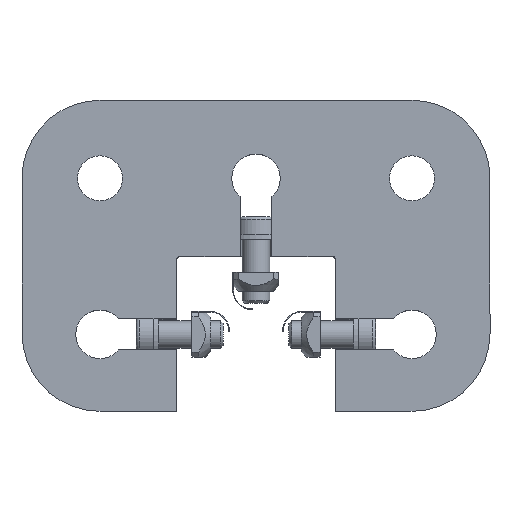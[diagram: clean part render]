
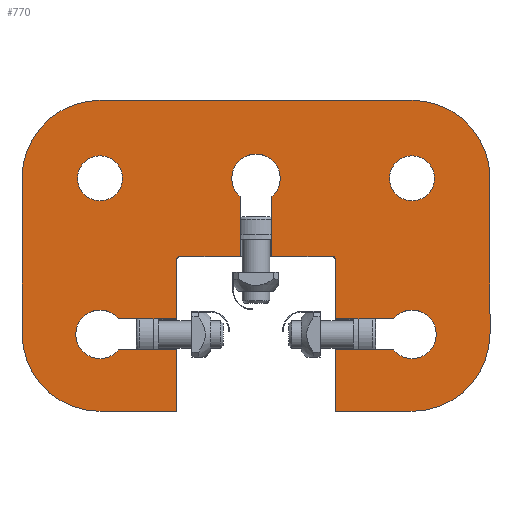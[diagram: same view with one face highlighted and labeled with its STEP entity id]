
A CAD part, top view. The second image highlights one B-rep face of the part: STEP entity #770.
In plain terms, the highlighted planar face has unit normal (0, 0, 1).
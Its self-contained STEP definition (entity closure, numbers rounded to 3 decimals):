
#112=CARTESIAN_POINT('',(51.5,22.5,0.));
#113=VERTEX_POINT('',#112);
#114=CARTESIAN_POINT('',(45.0,22.5,0.0));
#115=DIRECTION('',(0.0,0.0,-1.0));
#116=DIRECTION('',(-1.0,0.0,0.0));
#117=AXIS2_PLACEMENT_3D('',#114,#115,#116);
#118=CIRCLE('',#117,6.5);
#119=EDGE_CURVE('',#113,#113,#118,.T.);
#140=CARTESIAN_POINT('',(-38.5,22.5,0.));
#141=VERTEX_POINT('',#140);
#142=CARTESIAN_POINT('',(-45.0,22.5,0.0));
#143=DIRECTION('',(0.0,0.0,-1.0));
#144=DIRECTION('',(-1.0,0.0,0.0));
#145=AXIS2_PLACEMENT_3D('',#142,#143,#144);
#146=CIRCLE('',#145,6.5);
#147=EDGE_CURVE('',#141,#141,#146,.T.);
#316=CARTESIAN_POINT('',(-23.,-27.0,0.));
#317=VERTEX_POINT('',#316);
#324=CARTESIAN_POINT('',(-23.,-44.7,0.));
#325=VERTEX_POINT('',#324);
#326=CARTESIAN_POINT('',(-23.,-44.7,0.));
#327=DIRECTION('',(0.0,1.0,0.0));
#328=VECTOR('',#327,17.7);
#329=LINE('',#326,#328);
#330=EDGE_CURVE('',#325,#317,#329,.T.);
#357=CARTESIAN_POINT('',(-23.,-1.0,0.));
#358=VERTEX_POINT('',#357);
#365=CARTESIAN_POINT('',(-23.,-18.,0.));
#366=VERTEX_POINT('',#365);
#367=CARTESIAN_POINT('',(-23.,-18.,0.));
#368=DIRECTION('',(0.0,1.0,0.0));
#369=VECTOR('',#368,17.);
#370=LINE('',#367,#369);
#371=EDGE_CURVE('',#366,#358,#370,.T.);
#430=CARTESIAN_POINT('',(23.,-18.0,0.));
#431=VERTEX_POINT('',#430);
#438=CARTESIAN_POINT('',(23.,-1.0,0.));
#439=VERTEX_POINT('',#438);
#440=CARTESIAN_POINT('',(23.,-1.0,0.));
#441=DIRECTION('',(0.0,-1.0,0.0));
#442=VECTOR('',#441,17.0);
#443=LINE('',#440,#442);
#444=EDGE_CURVE('',#439,#431,#443,.T.);
#471=CARTESIAN_POINT('',(23.,-44.7,0.));
#472=VERTEX_POINT('',#471);
#479=CARTESIAN_POINT('',(23.,-27.,0.));
#480=VERTEX_POINT('',#479);
#481=CARTESIAN_POINT('',(23.,-27.,0.));
#482=DIRECTION('',(0.0,-1.0,0.0));
#483=VECTOR('',#482,17.7);
#484=LINE('',#481,#483);
#485=EDGE_CURVE('',#480,#472,#484,.T.);
#503=CARTESIAN_POINT('',(4.5,0.0,0.));
#504=VERTEX_POINT('',#503);
#511=CARTESIAN_POINT('',(4.5,17.138,0.));
#512=VERTEX_POINT('',#511);
#513=CARTESIAN_POINT('',(4.5,17.138,0.));
#514=DIRECTION('',(0.0,-1.0,0.0));
#515=VECTOR('',#514,17.138);
#516=LINE('',#513,#515);
#517=EDGE_CURVE('',#512,#504,#516,.T.);
#551=CARTESIAN_POINT('',(-4.5,17.138,0.));
#552=VERTEX_POINT('',#551);
#553=CARTESIAN_POINT('',(0.0,22.5,0.));
#554=DIRECTION('',(0.,0.,-1.0));
#555=DIRECTION('',(-0.643,-0.766,0.));
#556=AXIS2_PLACEMENT_3D('',#553,#554,#555);
#557=CIRCLE('',#556,7.);
#558=EDGE_CURVE('',#552,#512,#557,.T.);
#582=CARTESIAN_POINT('',(-4.5,0.0,0.));
#583=VERTEX_POINT('',#582);
#584=CARTESIAN_POINT('',(-4.5,0.0,0.));
#585=DIRECTION('',(0.0,1.0,0.0));
#586=VECTOR('',#585,17.138);
#587=LINE('',#584,#586);
#588=EDGE_CURVE('',#583,#552,#587,.T.);
#600=CARTESIAN_POINT('',(0.,0.239,0.));
#601=DIRECTION('',(0.0,0.0,-1.0));
#602=DIRECTION('',(0.0,-1.0,0.0));
#603=AXIS2_PLACEMENT_3D('',#600,#601,#602);
#604=PLANE('',#603);
#605=ORIENTED_EDGE('',*,*,#588,.T.);
#606=ORIENTED_EDGE('',*,*,#558,.T.);
#607=ORIENTED_EDGE('',*,*,#517,.T.);
#608=CARTESIAN_POINT('',(22.,0.0,0.));
#609=VERTEX_POINT('',#608);
#610=CARTESIAN_POINT('',(4.5,0.,0.));
#611=DIRECTION('',(1.0,0.0,0.0));
#612=VECTOR('',#611,17.5);
#613=LINE('',#610,#612);
#614=EDGE_CURVE('',#504,#609,#613,.T.);
#615=ORIENTED_EDGE('',*,*,#614,.T.);
#616=CARTESIAN_POINT('',(22.,-1.0,0.));
#617=DIRECTION('',(0.0,0.0,-1.0));
#618=DIRECTION('',(0.0,1.0,0.0));
#619=AXIS2_PLACEMENT_3D('',#616,#617,#618);
#620=CIRCLE('',#619,1.);
#621=EDGE_CURVE('',#609,#439,#620,.T.);
#622=ORIENTED_EDGE('',*,*,#621,.T.);
#623=ORIENTED_EDGE('',*,*,#444,.T.);
#624=CARTESIAN_POINT('',(39.638,-18.0,0.));
#625=VERTEX_POINT('',#624);
#626=CARTESIAN_POINT('',(23.,-18.0,0.));
#627=DIRECTION('',(1.0,0.0,0.0));
#628=VECTOR('',#627,16.638);
#629=LINE('',#626,#628);
#630=EDGE_CURVE('',#431,#625,#629,.T.);
#631=ORIENTED_EDGE('',*,*,#630,.T.);
#632=CARTESIAN_POINT('',(39.638,-27.,0.));
#633=VERTEX_POINT('',#632);
#634=CARTESIAN_POINT('',(45.,-22.5,0.));
#635=DIRECTION('',(0.,0.,-1.0));
#636=DIRECTION('',(-0.766,0.643,0.));
#637=AXIS2_PLACEMENT_3D('',#634,#635,#636);
#638=CIRCLE('',#637,7.);
#639=EDGE_CURVE('',#625,#633,#638,.T.);
#640=ORIENTED_EDGE('',*,*,#639,.T.);
#641=CARTESIAN_POINT('',(39.638,-27.,0.));
#642=DIRECTION('',(-1.0,0.0,0.0));
#643=VECTOR('',#642,16.638);
#644=LINE('',#641,#643);
#645=EDGE_CURVE('',#633,#480,#644,.T.);
#646=ORIENTED_EDGE('',*,*,#645,.T.);
#647=ORIENTED_EDGE('',*,*,#485,.T.);
#648=CARTESIAN_POINT('',(45.,-44.7,0.));
#649=VERTEX_POINT('',#648);
#650=CARTESIAN_POINT('',(23.,-44.7,0.));
#651=DIRECTION('',(1.0,0.0,0.0));
#652=VECTOR('',#651,22.);
#653=LINE('',#650,#652);
#654=EDGE_CURVE('',#472,#649,#653,.T.);
#655=ORIENTED_EDGE('',*,*,#654,.T.);
#656=CARTESIAN_POINT('',(67.5,-22.2,0.));
#657=VERTEX_POINT('',#656);
#658=CARTESIAN_POINT('',(45.,-22.2,0.));
#659=DIRECTION('',(0.0,0.0,1.0));
#660=DIRECTION('',(0.0,-1.0,0.0));
#661=AXIS2_PLACEMENT_3D('',#658,#659,#660);
#662=CIRCLE('',#661,22.5);
#663=EDGE_CURVE('',#649,#657,#662,.T.);
#664=ORIENTED_EDGE('',*,*,#663,.T.);
#665=CARTESIAN_POINT('',(67.5,22.5,0.));
#666=VERTEX_POINT('',#665);
#667=CARTESIAN_POINT('',(67.5,-22.2,0.));
#668=DIRECTION('',(0.0,1.0,0.0));
#669=VECTOR('',#668,44.7);
#670=LINE('',#667,#669);
#671=EDGE_CURVE('',#657,#666,#670,.T.);
#672=ORIENTED_EDGE('',*,*,#671,.T.);
#673=CARTESIAN_POINT('',(45.0,45.0,0.));
#674=VERTEX_POINT('',#673);
#675=CARTESIAN_POINT('',(45.,22.5,0.));
#676=DIRECTION('',(0.0,0.0,1.0));
#677=DIRECTION('',(1.0,0.0,0.0));
#678=AXIS2_PLACEMENT_3D('',#675,#676,#677);
#679=CIRCLE('',#678,22.5);
#680=EDGE_CURVE('',#666,#674,#679,.T.);
#681=ORIENTED_EDGE('',*,*,#680,.T.);
#682=CARTESIAN_POINT('',(-45.0,45.0,0.));
#683=VERTEX_POINT('',#682);
#684=CARTESIAN_POINT('',(45.0,45.0,0.));
#685=DIRECTION('',(-1.0,0.0,0.0));
#686=VECTOR('',#685,90.0);
#687=LINE('',#684,#686);
#688=EDGE_CURVE('',#674,#683,#687,.T.);
#689=ORIENTED_EDGE('',*,*,#688,.T.);
#690=CARTESIAN_POINT('',(-67.5,22.5,0.));
#691=VERTEX_POINT('',#690);
#692=CARTESIAN_POINT('',(-45.,22.5,0.));
#693=DIRECTION('',(0.0,0.0,1.0));
#694=DIRECTION('',(0.0,1.0,0.0));
#695=AXIS2_PLACEMENT_3D('',#692,#693,#694);
#696=CIRCLE('',#695,22.5);
#697=EDGE_CURVE('',#683,#691,#696,.T.);
#698=ORIENTED_EDGE('',*,*,#697,.T.);
#699=CARTESIAN_POINT('',(-67.5,-22.2,0.));
#700=VERTEX_POINT('',#699);
#701=CARTESIAN_POINT('',(-67.5,22.5,0.));
#702=DIRECTION('',(0.0,-1.0,0.0));
#703=VECTOR('',#702,44.7);
#704=LINE('',#701,#703);
#705=EDGE_CURVE('',#691,#700,#704,.T.);
#706=ORIENTED_EDGE('',*,*,#705,.T.);
#707=CARTESIAN_POINT('',(-45.0,-44.7,0.));
#708=VERTEX_POINT('',#707);
#709=CARTESIAN_POINT('',(-45.0,-22.2,0.));
#710=DIRECTION('',(0.0,0.0,1.0));
#711=DIRECTION('',(-1.0,0.0,0.0));
#712=AXIS2_PLACEMENT_3D('',#709,#710,#711);
#713=CIRCLE('',#712,22.5);
#714=EDGE_CURVE('',#700,#708,#713,.T.);
#715=ORIENTED_EDGE('',*,*,#714,.T.);
#716=CARTESIAN_POINT('',(-45.0,-44.7,0.));
#717=DIRECTION('',(1.0,0.0,0.0));
#718=VECTOR('',#717,22.);
#719=LINE('',#716,#718);
#720=EDGE_CURVE('',#708,#325,#719,.T.);
#721=ORIENTED_EDGE('',*,*,#720,.T.);
#722=ORIENTED_EDGE('',*,*,#330,.T.);
#723=CARTESIAN_POINT('',(-39.638,-27.0,0.));
#724=VERTEX_POINT('',#723);
#725=CARTESIAN_POINT('',(-23.,-27.0,0.));
#726=DIRECTION('',(-1.0,0.0,0.0));
#727=VECTOR('',#726,16.638);
#728=LINE('',#725,#727);
#729=EDGE_CURVE('',#317,#724,#728,.T.);
#730=ORIENTED_EDGE('',*,*,#729,.T.);
#731=CARTESIAN_POINT('',(-39.638,-18.,0.));
#732=VERTEX_POINT('',#731);
#733=CARTESIAN_POINT('',(-45.,-22.5,0.));
#734=DIRECTION('',(0.,0.,-1.0));
#735=DIRECTION('',(0.766,-0.643,0.));
#736=AXIS2_PLACEMENT_3D('',#733,#734,#735);
#737=CIRCLE('',#736,7.);
#738=EDGE_CURVE('',#724,#732,#737,.T.);
#739=ORIENTED_EDGE('',*,*,#738,.T.);
#740=CARTESIAN_POINT('',(-39.638,-18.,0.));
#741=DIRECTION('',(1.0,0.0,0.0));
#742=VECTOR('',#741,16.638);
#743=LINE('',#740,#742);
#744=EDGE_CURVE('',#732,#366,#743,.T.);
#745=ORIENTED_EDGE('',*,*,#744,.T.);
#746=ORIENTED_EDGE('',*,*,#371,.T.);
#747=CARTESIAN_POINT('',(-22.,0.0,0.));
#748=VERTEX_POINT('',#747);
#749=CARTESIAN_POINT('',(-22.,-1.0,0.));
#750=DIRECTION('',(0.0,0.0,-1.0));
#751=DIRECTION('',(-1.0,0.0,0.0));
#752=AXIS2_PLACEMENT_3D('',#749,#750,#751);
#753=CIRCLE('',#752,1.);
#754=EDGE_CURVE('',#358,#748,#753,.T.);
#755=ORIENTED_EDGE('',*,*,#754,.T.);
#756=CARTESIAN_POINT('',(-22.,0.0,0.));
#757=DIRECTION('',(1.0,0.0,0.0));
#758=VECTOR('',#757,17.5);
#759=LINE('',#756,#758);
#760=EDGE_CURVE('',#748,#583,#759,.T.);
#761=ORIENTED_EDGE('',*,*,#760,.T.);
#762=EDGE_LOOP('',(#605,#606,#607,#615,#622,#623,#631,#640,#646,#647,#655,#664,#672,#681,#689,#698,#706,#715,#721,#722,#730,#739,#745,#746,#755,#761));
#763=FACE_OUTER_BOUND('',#762,.T.);
#764=ORIENTED_EDGE('',*,*,#119,.T.);
#765=EDGE_LOOP('',(#764));
#766=FACE_BOUND('',#765,.T.);
#767=ORIENTED_EDGE('',*,*,#147,.T.);
#768=EDGE_LOOP('',(#767));
#769=FACE_BOUND('',#768,.T.);
#770=ADVANCED_FACE('',(#763,#766,#769),#604,.F.);
